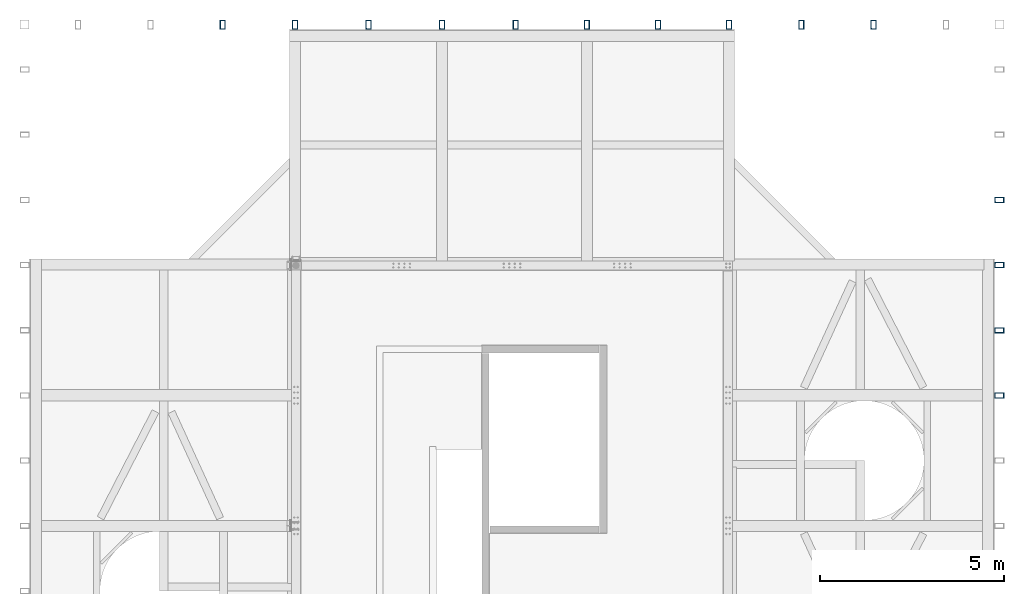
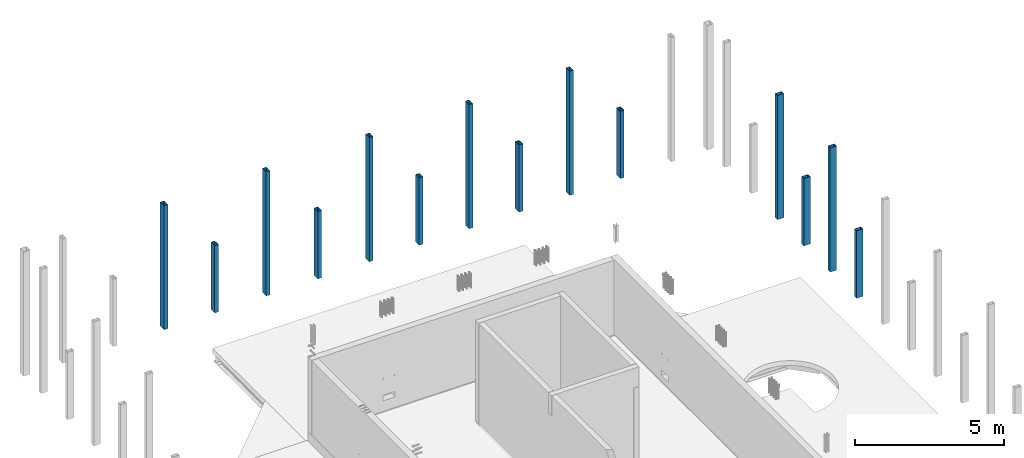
# One storey, part 4 of 16: 14 columns.
"""IFC2X3 building model written with IfcOpenShell, lengths in millimetres."""

from ifc_helpers import new_model, entity, si_unit, converted_unit, derived_unit, direction, frame, frame_2d, origin, place, context, subcontext, project, spatial, polyline, circle_curve, parameter, trimmed, segment, composite_curve, outline, extrude, source, transform, mapped, material, type_object, type_shapes, element, save


model = new_model("IFC2X3")

# Units and contexts
model_context = context("Model", 3, precision=0.01, world=origin(), true_north=direction((6.12303176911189e-17, 1.0)))
body_context = subcontext(model_context, "Body", "Model", "MODEL_VIEW")
ifc_project = project(units=[si_unit("LENGTHUNIT", "METRE", prefix="MILLI"), si_unit("AREAUNIT", "SQUARE_METRE"), si_unit("VOLUMEUNIT", "CUBIC_METRE"), converted_unit("PLANEANGLEUNIT", "DEGREE", entity("IfcRatioMeasure", 0.0174532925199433), si_unit("PLANEANGLEUNIT", "RADIAN"), dimensions=[0, 0, 0, 0, 0, 0, 0]), si_unit("MASSUNIT", "GRAM", prefix="KILO"), derived_unit("MASSDENSITYUNIT", [(si_unit("MASSUNIT", "GRAM", prefix="KILO"), 1), (si_unit("LENGTHUNIT", "METRE"), -3)]), si_unit("TIMEUNIT", "SECOND"), si_unit("FREQUENCYUNIT", "HERTZ"), si_unit("THERMODYNAMICTEMPERATUREUNIT", "DEGREE_CELSIUS"), derived_unit("THERMALTRANSMITTANCEUNIT", [(si_unit("MASSUNIT", "GRAM", prefix="KILO"), 1), (si_unit("THERMODYNAMICTEMPERATUREUNIT", "KELVIN"), -1), (si_unit("TIMEUNIT", "SECOND"), -3)]), derived_unit("VOLUMETRICFLOWRATEUNIT", [(si_unit("LENGTHUNIT", "METRE"), 3), (si_unit("TIMEUNIT", "SECOND"), -1)]), si_unit("ELECTRICCURRENTUNIT", "AMPERE"), si_unit("ELECTRICVOLTAGEUNIT", "VOLT"), si_unit("POWERUNIT", "WATT"), si_unit("FORCEUNIT", "NEWTON", prefix="KILO"), si_unit("ILLUMINANCEUNIT", "LUX"), si_unit("LUMINOUSFLUXUNIT", "LUMEN"), si_unit("LUMINOUSINTENSITYUNIT", "CANDELA"), derived_unit("USERDEFINED", [(si_unit("MASSUNIT", "GRAM", prefix="KILO"), -1), (si_unit("LENGTHUNIT", "METRE"), -2), (si_unit("TIMEUNIT", "SECOND"), 3), (si_unit("LUMINOUSFLUXUNIT", "LUMEN"), 1)]), derived_unit("LINEARVELOCITYUNIT", [(si_unit("LENGTHUNIT", "METRE"), 1), (si_unit("TIMEUNIT", "SECOND"), -1)]), si_unit("PRESSUREUNIT", "PASCAL"), derived_unit("USERDEFINED", [(si_unit("LENGTHUNIT", "METRE"), -2), (si_unit("MASSUNIT", "GRAM", prefix="KILO"), 1), (si_unit("TIMEUNIT", "SECOND"), -2)])], contexts=[model_context])

# Site, building, storey
site_placement = place(None, origin())
site = spatial("IfcSite", under=ifc_project, at=site_placement, Name="Default", CompositionType="ELEMENT")
building_placement = place(site_placement, origin())
building = spatial("IfcBuilding", under=site, at=building_placement, Name="niet gebruiken", CompositionType="ELEMENT")
storey_placement = place(building_placement, frame((0.0, 0.0, 183150.0)))
storey = spatial("IfcBuildingStorey", under=building, at=storey_placement, Name="58 achtenvijftigste verdieping", CompositionType="ELEMENT", Elevation=183150.0)

# Columns
ifc_material = material(Name="NLRS_h2_staal")
column_type_1 = type_object("IfcColumnType", Name="kolom buisprofiel rechthoekig RHSH_250x150x16", PredefinedType="COLUMN", material=ifc_material)
shared_shape_1 = source(origin(), body_context, "Body", "SweptSolid", [
    extrude(outline(polyline([(-125.0, -75.0), (125.0, -75.0), (125.0, 75.0), (-125.0, 75.0), (-125.0, -75.0)]), holes=[composite_curve([segment(trimmed(circle_curve(frame_2d((-96.5, -46.5000000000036), x_axis=(0.0, 1.0)), 12.5), [parameter(90.0)], [parameter(180.0)], True, "PARAMETER"), False, "CONTINUOUS"), segment(polyline([(-109.0, -46.5), (-109.0, 46.4999999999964)]), True, "CONTINUOUS"), segment(trimmed(circle_curve(frame_2d((-96.5, 46.4999999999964), x_axis=(0.0, 1.0)), 12.5), [parameter(360.0)], [parameter(89.9999999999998)], True, "PARAMETER"), False, "CONTINUOUS"), segment(polyline([(-96.4999999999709, 59.0), (96.5000000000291, 59.0)]), True, "CONTINUOUS"), segment(trimmed(circle_curve(frame_2d((96.5000000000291, 46.4999999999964), x_axis=(0.0, 1.0)), 12.5), [parameter(270.0)], [parameter(360.0)], True, "PARAMETER"), False, "CONTINUOUS"), segment(polyline([(109.0, 46.4999999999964), (109.0, -46.5)]), True, "CONTINUOUS"), segment(trimmed(circle_curve(frame_2d((96.5000000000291, -46.5000000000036), x_axis=(0.0, 1.0)), 12.5), [parameter(180.0)], [parameter(270.0)], True, "PARAMETER"), False, "CONTINUOUS"), segment(polyline([(96.5000000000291, -59.0), (-96.4999999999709, -59.0)]), True, "CONTINUOUS")], self_intersect=False)]), frame((155005.0, 21045.0, 184200.0)), (0.0, 0.0, 1.0), 2760.0),
])
type_shapes(column_type_1, [shared_shape_1])
column_1_placement = place(storey_placement, frame((0.0, 0.0, -183150.0)))
element("IfcColumn", 1, at=column_1_placement, inside=storey, type_object=column_type_1, material=ifc_material, Name="NLRS_28.11_SCO_TLB_stalen kolom buisprofiel rechthoekig_gen:kolom buisprofiel rechthoekig RHSH_250x150x16", ObjectType="kolom buisprofiel rechthoekig RHSH_250x150x16", context=body_context, shape_type="MappedRepresentation", body=[
    mapped(shared_shape_1, transform((0.0, 0.0, 0.0), scale=1.0)),
])
column_type_2 = type_object("IfcColumnType", Name="kolom buisprofiel rechthoekig RHSH_250x150x16", PredefinedType="COLUMN", material=ifc_material)
shared_shape_2 = source(origin(), body_context, "Body", "SweptSolid", [
    extrude(outline(polyline([(-125.0, -75.0), (125.0, -75.0), (125.0, 75.0), (-125.0, 75.0), (-125.0, -75.0)]), holes=[composite_curve([segment(trimmed(circle_curve(frame_2d((-96.5, -46.5000000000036), x_axis=(0.0, 1.0)), 12.5), [parameter(90.0)], [parameter(180.0)], True, "PARAMETER"), False, "CONTINUOUS"), segment(polyline([(-109.0, -46.5), (-109.0, 46.4999999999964)]), True, "CONTINUOUS"), segment(trimmed(circle_curve(frame_2d((-96.5, 46.4999999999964), x_axis=(0.0, 1.0)), 12.5), [parameter(360.0)], [parameter(89.9999999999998)], True, "PARAMETER"), False, "CONTINUOUS"), segment(polyline([(-96.4999999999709, 59.0), (96.5000000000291, 59.0)]), True, "CONTINUOUS"), segment(trimmed(circle_curve(frame_2d((96.5000000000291, 46.4999999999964), x_axis=(0.0, 1.0)), 12.5), [parameter(270.0)], [parameter(360.0)], True, "PARAMETER"), False, "CONTINUOUS"), segment(polyline([(109.0, 46.4999999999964), (109.0, -46.5)]), True, "CONTINUOUS"), segment(trimmed(circle_curve(frame_2d((96.5000000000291, -46.5000000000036), x_axis=(0.0, 1.0)), 12.5), [parameter(180.0)], [parameter(270.0)], True, "PARAMETER"), False, "CONTINUOUS"), segment(polyline([(96.5000000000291, -59.0), (-96.4999999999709, -59.0)]), True, "CONTINUOUS")], self_intersect=False)]), frame((155005.0, 22817.4999999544, 184200.0)), (0.0, 0.0, 1.0), 5089.99999999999),
])
type_shapes(column_type_2, [shared_shape_2])
column_2_placement = place(storey_placement, frame((0.0, 0.0, -183150.0)))
element("IfcColumn", 2, at=column_2_placement, inside=storey, type_object=column_type_2, material=ifc_material, Name="NLRS_28.11_SCO_TLB_stalen kolom buisprofiel rechthoekig_gen:kolom buisprofiel rechthoekig RHSH_250x150x16", ObjectType="kolom buisprofiel rechthoekig RHSH_250x150x16", context=body_context, shape_type="MappedRepresentation", body=[
    mapped(shared_shape_2, transform((0.0, 0.0, 0.0), scale=1.0)),
])
column_type_3 = type_object("IfcColumnType", Name="kolom buisprofiel rechthoekig RHSH_250x150x16", PredefinedType="COLUMN", material=ifc_material)
shared_shape_3 = source(origin(), body_context, "Body", "SweptSolid", [
    extrude(outline(polyline([(-125.0, -75.0), (125.0, -75.0), (125.0, 75.0), (-125.0, 75.0), (-125.0, -75.0)]), holes=[composite_curve([segment(trimmed(circle_curve(frame_2d((-96.5, -46.5000000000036), x_axis=(0.0, 1.0)), 12.5), [parameter(90.0)], [parameter(180.0)], True, "PARAMETER"), False, "CONTINUOUS"), segment(polyline([(-109.0, -46.4999999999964), (-109.0, 46.5)]), True, "CONTINUOUS"), segment(trimmed(circle_curve(frame_2d((-96.5, 46.5), x_axis=(0.0, 1.0)), 12.5), [parameter(360.0)], [parameter(89.9999999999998)], True, "PARAMETER"), False, "CONTINUOUS"), segment(polyline([(-96.5, 59.0), (96.5, 59.0)]), True, "CONTINUOUS"), segment(trimmed(circle_curve(frame_2d((96.5, 46.5), x_axis=(0.0, 1.0)), 12.5), [parameter(270.0)], [parameter(360.0)], True, "PARAMETER"), False, "CONTINUOUS"), segment(polyline([(109.0, 46.5), (109.0, -46.4999999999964)]), True, "CONTINUOUS"), segment(trimmed(circle_curve(frame_2d((96.5, -46.5000000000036), x_axis=(0.0, 1.0)), 12.5), [parameter(180.0)], [parameter(270.0)], True, "PARAMETER"), False, "CONTINUOUS"), segment(polyline([(96.5, -59.0), (-96.5, -59.0)]), True, "CONTINUOUS")], self_intersect=False)]), frame((155005.0, 24590.0, 184200.0)), (0.0, 0.0, 1.0), 2760.0),
])
type_shapes(column_type_3, [shared_shape_3])
column_3_placement = place(storey_placement, frame((0.0, 0.0, -183150.0)))
element("IfcColumn", 3, at=column_3_placement, inside=storey, type_object=column_type_3, material=ifc_material, Name="NLRS_28.11_SCO_TLB_stalen kolom buisprofiel rechthoekig_gen:kolom buisprofiel rechthoekig RHSH_250x150x16", ObjectType="kolom buisprofiel rechthoekig RHSH_250x150x16", context=body_context, shape_type="MappedRepresentation", body=[
    mapped(shared_shape_3, transform((0.0, 0.0, 0.0), scale=1.0)),
])
column_type_4 = type_object("IfcColumnType", Name="kolom buisprofiel rechthoekig RHSH_250x150x16", PredefinedType="COLUMN", material=ifc_material)
shared_shape_4 = source(origin(), body_context, "Body", "SweptSolid", [
    extrude(outline(polyline([(-125.0, -75.0), (125.0, -75.0), (125.0, 75.0), (-125.0, 75.0), (-125.0, -75.0)]), holes=[composite_curve([segment(trimmed(circle_curve(frame_2d((-96.5, -46.5), x_axis=(0.0, 1.0)), 12.5), [parameter(90.0)], [parameter(180.0)], True, "PARAMETER"), False, "CONTINUOUS"), segment(polyline([(-109.0, -46.4999999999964), (-109.0, 46.5)]), True, "CONTINUOUS"), segment(trimmed(circle_curve(frame_2d((-96.5, 46.5), x_axis=(0.0, 1.0)), 12.5), [parameter(360.0)], [parameter(89.9999999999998)], True, "PARAMETER"), False, "CONTINUOUS"), segment(polyline([(-96.5, 59.0), (96.5, 59.0)]), True, "CONTINUOUS"), segment(trimmed(circle_curve(frame_2d((96.5, 46.5), x_axis=(0.0, 1.0)), 12.5), [parameter(270.0)], [parameter(360.0)], True, "PARAMETER"), False, "CONTINUOUS"), segment(polyline([(109.0, 46.5), (109.0, -46.4999999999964)]), True, "CONTINUOUS"), segment(trimmed(circle_curve(frame_2d((96.5, -46.5), x_axis=(0.0, 1.0)), 12.5), [parameter(180.0)], [parameter(270.0)], True, "PARAMETER"), False, "CONTINUOUS"), segment(polyline([(96.5, -59.0), (-96.5, -59.0)]), True, "CONTINUOUS")], self_intersect=False)]), frame((155005.0, 26362.4999999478, 184200.0)), (0.0, 0.0, 1.0), 5089.99999999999),
])
type_shapes(column_type_4, [shared_shape_4])
column_4_placement = place(storey_placement, frame((0.0, 0.0, -183150.0)))
element("IfcColumn", 4, at=column_4_placement, inside=storey, type_object=column_type_4, material=ifc_material, Name="NLRS_28.11_SCO_TLB_stalen kolom buisprofiel rechthoekig_gen:kolom buisprofiel rechthoekig RHSH_250x150x16", ObjectType="kolom buisprofiel rechthoekig RHSH_250x150x16", context=body_context, shape_type="MappedRepresentation", body=[
    mapped(shared_shape_4, transform((0.0, 0.0, 0.0), scale=1.0)),
])
column_type_5 = type_object("IfcColumnType", Name="kolom buisprofiel rechthoekig RHSH_250x150x16", PredefinedType="COLUMN", material=ifc_material)
shared_shape_5 = source(origin(), body_context, "Body", "SweptSolid", [
    extrude(outline(polyline([(-125.0, -75.0), (125.0, -75.0), (125.0, 75.0), (-125.0, 75.0), (-125.0, -75.0)]), holes=[composite_curve([segment(trimmed(circle_curve(frame_2d((-96.5000000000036, -46.5), x_axis=(0.0, 1.0)), 12.5), [parameter(90.0)], [parameter(180.0)], True, "PARAMETER"), False, "CONTINUOUS"), segment(polyline([(-109.0, -46.5), (-109.0, 46.5)]), True, "CONTINUOUS"), segment(trimmed(circle_curve(frame_2d((-96.5000000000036, 46.5), x_axis=(0.0, 1.0)), 12.5), [parameter(360.0)], [parameter(89.9999999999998)], True, "PARAMETER"), False, "CONTINUOUS"), segment(polyline([(-96.5000000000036, 59.0), (96.5, 59.0)]), True, "CONTINUOUS"), segment(trimmed(circle_curve(frame_2d((96.4999999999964, 46.5), x_axis=(0.0, 1.0)), 12.5), [parameter(270.0)], [parameter(360.0)], True, "PARAMETER"), False, "CONTINUOUS"), segment(polyline([(109.0, 46.5), (109.0, -46.5)]), True, "CONTINUOUS"), segment(trimmed(circle_curve(frame_2d((96.4999999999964, -46.5), x_axis=(0.0, 1.0)), 12.5), [parameter(180.0)], [parameter(270.0)], True, "PARAMETER"), False, "CONTINUOUS"), segment(polyline([(96.5, -59.0), (-96.5000000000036, -59.0)]), True, "CONTINUOUS")], self_intersect=False)]), frame((151583.333333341, 31130.0, 184200.0), z_axis=(0.0, 0.0, 1.0), x_axis=(0.0, -1.0, 0.0)), (0.0, 0.0, 1.0), 2760.0),
])
type_shapes(column_type_5, [shared_shape_5])
column_5_placement = place(storey_placement, frame((0.0, 0.0, -183150.0)))
element("IfcColumn", 5, at=column_5_placement, inside=storey, type_object=column_type_5, material=ifc_material, Name="NLRS_28.11_SCO_TLB_stalen kolom buisprofiel rechthoekig_gen:kolom buisprofiel rechthoekig RHSH_250x150x16", ObjectType="kolom buisprofiel rechthoekig RHSH_250x150x16", context=body_context, shape_type="MappedRepresentation", body=[
    mapped(shared_shape_5, transform((0.0, 0.0, 0.0), scale=1.0)),
])
column_type_6 = type_object("IfcColumnType", Name="kolom buisprofiel rechthoekig RHSH_250x150x16", PredefinedType="COLUMN", material=ifc_material)
shared_shape_6 = source(origin(), body_context, "Body", "SweptSolid", [
    extrude(outline(polyline([(-125.0, -75.0), (125.0, -75.0), (125.0, 75.0), (-125.0, 75.0), (-125.0, -75.0)]), holes=[composite_curve([segment(trimmed(circle_curve(frame_2d((-96.4999999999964, -46.5), x_axis=(0.0, 1.0)), 12.5), [parameter(90.0)], [parameter(180.0)], True, "PARAMETER"), False, "CONTINUOUS"), segment(polyline([(-109.0, -46.5), (-109.0, 46.5)]), True, "CONTINUOUS"), segment(trimmed(circle_curve(frame_2d((-96.4999999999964, 46.5), x_axis=(0.0, 1.0)), 12.5), [parameter(360.0)], [parameter(89.9999999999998)], True, "PARAMETER"), False, "CONTINUOUS"), segment(polyline([(-96.4999999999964, 59.0), (96.5000000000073, 59.0)]), True, "CONTINUOUS"), segment(trimmed(circle_curve(frame_2d((96.5, 46.5), x_axis=(0.0, 1.0)), 12.5), [parameter(270.0)], [parameter(360.0)], True, "PARAMETER"), False, "CONTINUOUS"), segment(polyline([(109.0, 46.5), (109.0, -46.5)]), True, "CONTINUOUS"), segment(trimmed(circle_curve(frame_2d((96.5, -46.5), x_axis=(0.0, 1.0)), 12.5), [parameter(180.0)], [parameter(270.0)], True, "PARAMETER"), False, "CONTINUOUS"), segment(polyline([(96.5000000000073, -59.0), (-96.4999999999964, -59.0)]), True, "CONTINUOUS")], self_intersect=False)]), frame((149616.66666667, 31130.0, 184200.0), z_axis=(0.0, 0.0, 1.0), x_axis=(0.0, -1.0, 0.0)), (0.0, 0.0, 1.0), 5089.99999999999),
])
type_shapes(column_type_6, [shared_shape_6])
column_6_placement = place(storey_placement, frame((0.0, 0.0, -183150.0)))
element("IfcColumn", 6, at=column_6_placement, inside=storey, type_object=column_type_6, material=ifc_material, Name="NLRS_28.11_SCO_TLB_stalen kolom buisprofiel rechthoekig_gen:kolom buisprofiel rechthoekig RHSH_250x150x16", ObjectType="kolom buisprofiel rechthoekig RHSH_250x150x16", context=body_context, shape_type="MappedRepresentation", body=[
    mapped(shared_shape_6, transform((0.0, 0.0, 0.0), scale=1.0)),
])
column_type_7 = type_object("IfcColumnType", Name="kolom buisprofiel rechthoekig RHSH_250x150x16", PredefinedType="COLUMN", material=ifc_material)
shared_shape_7 = source(origin(), body_context, "Body", "SweptSolid", [
    extrude(outline(polyline([(-125.0, -75.0), (125.0, -75.0), (125.0, 75.0), (-125.0, 75.0), (-125.0, -75.0)]), holes=[composite_curve([segment(trimmed(circle_curve(frame_2d((-96.5000000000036, -46.5), x_axis=(0.0, 1.0)), 12.5), [parameter(90.0)], [parameter(180.0)], True, "PARAMETER"), False, "CONTINUOUS"), segment(polyline([(-109.0, -46.5), (-109.0, 46.5)]), True, "CONTINUOUS"), segment(trimmed(circle_curve(frame_2d((-96.5000000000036, 46.5), x_axis=(0.0, 1.0)), 12.5), [parameter(360.0)], [parameter(89.9999999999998)], True, "PARAMETER"), False, "CONTINUOUS"), segment(polyline([(-96.5000000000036, 59.0), (96.5, 59.0)]), True, "CONTINUOUS"), segment(trimmed(circle_curve(frame_2d((96.4999999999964, 46.5), x_axis=(0.0, 1.0)), 12.5), [parameter(270.0)], [parameter(360.0)], True, "PARAMETER"), False, "CONTINUOUS"), segment(polyline([(109.0, 46.5), (109.0, -46.5)]), True, "CONTINUOUS"), segment(trimmed(circle_curve(frame_2d((96.4999999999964, -46.5), x_axis=(0.0, 1.0)), 12.5), [parameter(180.0)], [parameter(270.0)], True, "PARAMETER"), False, "CONTINUOUS"), segment(polyline([(96.5, -59.0), (-96.5000000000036, -59.0)]), True, "CONTINUOUS")], self_intersect=False)]), frame((147650.0, 31130.0, 184200.0), z_axis=(0.0, 0.0, 1.0), x_axis=(0.0, -1.0, 0.0)), (0.0, 0.0, 1.0), 2760.0),
])
type_shapes(column_type_7, [shared_shape_7])
column_7_placement = place(storey_placement, frame((0.0, 0.0, -183150.0)))
element("IfcColumn", 7, at=column_7_placement, inside=storey, type_object=column_type_7, material=ifc_material, Name="NLRS_28.11_SCO_TLB_stalen kolom buisprofiel rechthoekig_gen:kolom buisprofiel rechthoekig RHSH_250x150x16", ObjectType="kolom buisprofiel rechthoekig RHSH_250x150x16", context=body_context, shape_type="MappedRepresentation", body=[
    mapped(shared_shape_7, transform((0.0, 0.0, 0.0), scale=1.0)),
])
column_type_8 = type_object("IfcColumnType", Name="kolom buisprofiel rechthoekig RHSH_250x150x16", PredefinedType="COLUMN", material=ifc_material)
shared_shape_8 = source(origin(), body_context, "Body", "SweptSolid", [
    extrude(outline(polyline([(-125.0, -75.0), (125.0, -75.0), (125.0, 75.0), (-125.0, 75.0), (-125.0, -75.0)]), holes=[composite_curve([segment(trimmed(circle_curve(frame_2d((-96.5000000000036, -46.5), x_axis=(0.0, 1.0)), 12.5), [parameter(90.0)], [parameter(180.0)], True, "PARAMETER"), False, "CONTINUOUS"), segment(polyline([(-109.0, -46.5), (-109.0, 46.5)]), True, "CONTINUOUS"), segment(trimmed(circle_curve(frame_2d((-96.5000000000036, 46.5), x_axis=(0.0, 1.0)), 12.5), [parameter(360.0)], [parameter(89.9999999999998)], True, "PARAMETER"), False, "CONTINUOUS"), segment(polyline([(-96.5000000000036, 59.0), (96.5, 59.0)]), True, "CONTINUOUS"), segment(trimmed(circle_curve(frame_2d((96.4999999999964, 46.5), x_axis=(0.0, 1.0)), 12.5), [parameter(270.0)], [parameter(360.0)], True, "PARAMETER"), False, "CONTINUOUS"), segment(polyline([(109.0, 46.5), (109.0, -46.5)]), True, "CONTINUOUS"), segment(trimmed(circle_curve(frame_2d((96.4999999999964, -46.5), x_axis=(0.0, 1.0)), 12.5), [parameter(180.0)], [parameter(270.0)], True, "PARAMETER"), False, "CONTINUOUS"), segment(polyline([(96.5, -59.0), (-96.5000000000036, -59.0)]), True, "CONTINUOUS")], self_intersect=False)]), frame((145716.666666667, 31130.0, 184200.0), z_axis=(0.0, 0.0, 1.0), x_axis=(0.0, -1.0, 0.0)), (0.0, 0.0, 1.0), 5089.99999999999),
])
type_shapes(column_type_8, [shared_shape_8])
column_8_placement = place(storey_placement, frame((0.0, 0.0, -183150.0)))
element("IfcColumn", 8, at=column_8_placement, inside=storey, type_object=column_type_8, material=ifc_material, Name="NLRS_28.11_SCO_TLB_stalen kolom buisprofiel rechthoekig_gen:kolom buisprofiel rechthoekig RHSH_250x150x16", ObjectType="kolom buisprofiel rechthoekig RHSH_250x150x16", context=body_context, shape_type="MappedRepresentation", body=[
    mapped(shared_shape_8, transform((0.0, 0.0, 0.0), scale=1.0)),
])
column_type_9 = type_object("IfcColumnType", Name="kolom buisprofiel rechthoekig RHSH_250x150x16", PredefinedType="COLUMN", material=ifc_material)
shared_shape_9 = source(origin(), body_context, "Body", "SweptSolid", [
    extrude(outline(polyline([(-125.0, -75.0), (125.0, -75.0), (125.0, 75.0), (-125.0, 75.0), (-125.0, -75.0)]), holes=[composite_curve([segment(trimmed(circle_curve(frame_2d((-96.5, -46.5), x_axis=(0.0, 1.0)), 12.5), [parameter(90.0)], [parameter(180.0)], True, "PARAMETER"), False, "CONTINUOUS"), segment(polyline([(-109.0, -46.5), (-109.0, 46.5)]), True, "CONTINUOUS"), segment(trimmed(circle_curve(frame_2d((-96.5, 46.5), x_axis=(0.0, 1.0)), 12.5), [parameter(360.0)], [parameter(89.9999999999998)], True, "PARAMETER"), False, "CONTINUOUS"), segment(polyline([(-96.5, 59.0), (96.5000000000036, 59.0)]), True, "CONTINUOUS"), segment(trimmed(circle_curve(frame_2d((96.5, 46.5), x_axis=(0.0, 1.0)), 12.5), [parameter(270.0)], [parameter(360.0)], True, "PARAMETER"), False, "CONTINUOUS"), segment(polyline([(109.0, 46.5), (109.0, -46.5)]), True, "CONTINUOUS"), segment(trimmed(circle_curve(frame_2d((96.5, -46.5), x_axis=(0.0, 1.0)), 12.5), [parameter(180.0)], [parameter(270.0)], True, "PARAMETER"), False, "CONTINUOUS"), segment(polyline([(96.5000000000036, -59.0), (-96.5, -59.0)]), True, "CONTINUOUS")], self_intersect=False)]), frame((143783.333333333, 31130.0, 184200.0), z_axis=(0.0, 0.0, 1.0), x_axis=(0.0, -1.0, 0.0)), (0.0, 0.0, 1.0), 2760.0),
])
type_shapes(column_type_9, [shared_shape_9])
column_9_placement = place(storey_placement, frame((0.0, 0.0, -183150.0)))
element("IfcColumn", 9, at=column_9_placement, inside=storey, type_object=column_type_9, material=ifc_material, Name="NLRS_28.11_SCO_TLB_stalen kolom buisprofiel rechthoekig_gen:kolom buisprofiel rechthoekig RHSH_250x150x16", ObjectType="kolom buisprofiel rechthoekig RHSH_250x150x16", context=body_context, shape_type="MappedRepresentation", body=[
    mapped(shared_shape_9, transform((0.0, 0.0, 0.0), scale=1.0)),
])
column_type_10 = type_object("IfcColumnType", Name="kolom buisprofiel rechthoekig RHSH_250x150x16", PredefinedType="COLUMN", material=ifc_material)
shared_shape_10 = source(origin(), body_context, "Body", "SweptSolid", [
    extrude(outline(polyline([(-125.0, -75.0), (125.0, -75.0), (125.0, 75.0), (-125.0, 75.0), (-125.0, -75.0)]), holes=[composite_curve([segment(trimmed(circle_curve(frame_2d((-96.5, -46.5), x_axis=(0.0, 1.0)), 12.5), [parameter(90.0)], [parameter(180.0)], True, "PARAMETER"), False, "CONTINUOUS"), segment(polyline([(-109.0, -46.5), (-109.0, 46.5)]), True, "CONTINUOUS"), segment(trimmed(circle_curve(frame_2d((-96.5, 46.5), x_axis=(0.0, 1.0)), 12.5), [parameter(360.0)], [parameter(89.9999999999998)], True, "PARAMETER"), False, "CONTINUOUS"), segment(polyline([(-96.5, 59.0), (96.5000000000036, 59.0)]), True, "CONTINUOUS"), segment(trimmed(circle_curve(frame_2d((96.4999999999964, 46.5), x_axis=(0.0, 1.0)), 12.5), [parameter(270.0)], [parameter(360.0)], True, "PARAMETER"), False, "CONTINUOUS"), segment(polyline([(109.0, 46.5), (109.0, -46.5)]), True, "CONTINUOUS"), segment(trimmed(circle_curve(frame_2d((96.4999999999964, -46.5), x_axis=(0.0, 1.0)), 12.5), [parameter(180.0)], [parameter(270.0)], True, "PARAMETER"), False, "CONTINUOUS"), segment(polyline([(96.5000000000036, -59.0), (-96.5, -59.0)]), True, "CONTINUOUS")], self_intersect=False)]), frame((141850.0, 31130.0, 184200.0), z_axis=(0.0, 0.0, 1.0), x_axis=(0.0, -1.0, 0.0)), (0.0, 0.0, 1.0), 5089.99999999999),
])
type_shapes(column_type_10, [shared_shape_10])
column_10_placement = place(storey_placement, frame((0.0, 0.0, -183150.0)))
element("IfcColumn", 10, at=column_10_placement, inside=storey, type_object=column_type_10, material=ifc_material, Name="NLRS_28.11_SCO_TLB_stalen kolom buisprofiel rechthoekig_gen:kolom buisprofiel rechthoekig RHSH_250x150x16", ObjectType="kolom buisprofiel rechthoekig RHSH_250x150x16", context=body_context, shape_type="MappedRepresentation", body=[
    mapped(shared_shape_10, transform((0.0, 0.0, 0.0), scale=1.0)),
])
column_type_11 = type_object("IfcColumnType", Name="kolom buisprofiel rechthoekig RHSH_250x150x16", PredefinedType="COLUMN", material=ifc_material)
shared_shape_11 = source(origin(), body_context, "Body", "SweptSolid", [
    extrude(outline(polyline([(-125.0, -75.0), (125.0, -75.0), (125.0, 75.0), (-125.0, 75.0), (-125.0, -75.0)]), holes=[composite_curve([segment(trimmed(circle_curve(frame_2d((-96.5000000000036, -46.5), x_axis=(0.0, 1.0)), 12.5), [parameter(90.0)], [parameter(180.0)], True, "PARAMETER"), False, "CONTINUOUS"), segment(polyline([(-109.0, -46.5), (-109.0, 46.5)]), True, "CONTINUOUS"), segment(trimmed(circle_curve(frame_2d((-96.5000000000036, 46.5), x_axis=(0.0, 1.0)), 12.5), [parameter(360.0)], [parameter(89.9999999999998)], True, "PARAMETER"), False, "CONTINUOUS"), segment(polyline([(-96.5000000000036, 59.0), (96.5, 59.0)]), True, "CONTINUOUS"), segment(trimmed(circle_curve(frame_2d((96.4999999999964, 46.5), x_axis=(0.0, 1.0)), 12.5), [parameter(270.0)], [parameter(360.0)], True, "PARAMETER"), False, "CONTINUOUS"), segment(polyline([(109.0, 46.5), (109.0, -46.5)]), True, "CONTINUOUS"), segment(trimmed(circle_curve(frame_2d((96.4999999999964, -46.5), x_axis=(0.0, 1.0)), 12.5), [parameter(180.0)], [parameter(270.0)], True, "PARAMETER"), False, "CONTINUOUS"), segment(polyline([(96.5, -59.0), (-96.5000000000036, -59.0)]), True, "CONTINUOUS")], self_intersect=False)]), frame((139850.0, 31130.0, 184200.0), z_axis=(0.0, 0.0, 1.0), x_axis=(0.0, -1.0, 0.0)), (0.0, 0.0, 1.0), 2760.0),
])
type_shapes(column_type_11, [shared_shape_11])
column_11_placement = place(storey_placement, frame((0.0, 0.0, -183150.0)))
element("IfcColumn", 11, at=column_11_placement, inside=storey, type_object=column_type_11, material=ifc_material, Name="NLRS_28.11_SCO_TLB_stalen kolom buisprofiel rechthoekig_gen:kolom buisprofiel rechthoekig RHSH_250x150x16", ObjectType="kolom buisprofiel rechthoekig RHSH_250x150x16", context=body_context, shape_type="MappedRepresentation", body=[
    mapped(shared_shape_11, transform((0.0, 0.0, 0.0), scale=1.0)),
])
column_type_12 = type_object("IfcColumnType", Name="kolom buisprofiel rechthoekig RHSH_250x150x16", PredefinedType="COLUMN", material=ifc_material)
shared_shape_12 = source(origin(), body_context, "Body", "SweptSolid", [
    extrude(outline(polyline([(-125.0, -75.0), (125.0, -75.0), (125.0, 75.0), (-125.0, 75.0), (-125.0, -75.0)]), holes=[composite_curve([segment(trimmed(circle_curve(frame_2d((-96.5, -46.5), x_axis=(0.0, 1.0)), 12.5), [parameter(90.0)], [parameter(180.0)], True, "PARAMETER"), False, "CONTINUOUS"), segment(polyline([(-109.0, -46.5), (-109.0, 46.4999999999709)]), True, "CONTINUOUS"), segment(trimmed(circle_curve(frame_2d((-96.5, 46.4999999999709), x_axis=(0.0, 1.0)), 12.5), [parameter(360.0)], [parameter(89.9999999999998)], True, "PARAMETER"), False, "CONTINUOUS"), segment(polyline([(-96.5, 59.0), (96.5000000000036, 59.0)]), True, "CONTINUOUS"), segment(trimmed(circle_curve(frame_2d((96.5, 46.4999999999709), x_axis=(0.0, 1.0)), 12.5), [parameter(270.0)], [parameter(360.0)], True, "PARAMETER"), False, "CONTINUOUS"), segment(polyline([(109.0, 46.4999999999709), (109.0, -46.5)]), True, "CONTINUOUS"), segment(trimmed(circle_curve(frame_2d((96.5, -46.5), x_axis=(0.0, 1.0)), 12.5), [parameter(180.0)], [parameter(270.0)], True, "PARAMETER"), False, "CONTINUOUS"), segment(polyline([(96.5000000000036, -59.0), (-96.5, -59.0)]), True, "CONTINUOUS")], self_intersect=False)]), frame((137850.0, 31130.0, 184200.0), z_axis=(0.0, 0.0, 1.0), x_axis=(0.0, -1.0, 0.0)), (0.0, 0.0, 1.0), 5089.99999999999),
])
type_shapes(column_type_12, [shared_shape_12])
column_12_placement = place(storey_placement, frame((0.0, 0.0, -183150.0)))
element("IfcColumn", 12, at=column_12_placement, inside=storey, type_object=column_type_12, material=ifc_material, Name="NLRS_28.11_SCO_TLB_stalen kolom buisprofiel rechthoekig_gen:kolom buisprofiel rechthoekig RHSH_250x150x16", ObjectType="kolom buisprofiel rechthoekig RHSH_250x150x16", context=body_context, shape_type="MappedRepresentation", body=[
    mapped(shared_shape_12, transform((0.0, 0.0, 0.0), scale=1.0)),
])
column_type_13 = type_object("IfcColumnType", Name="kolom buisprofiel rechthoekig RHSH_250x150x16", PredefinedType="COLUMN", material=ifc_material)
shared_shape_13 = source(origin(), body_context, "Body", "SweptSolid", [
    extrude(outline(polyline([(-125.0, -75.0), (125.0, -75.0), (125.0, 75.0), (-125.0, 75.0), (-125.0, -75.0)]), holes=[composite_curve([segment(trimmed(circle_curve(frame_2d((-96.5000000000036, -46.5), x_axis=(0.0, 1.0)), 12.5), [parameter(90.0)], [parameter(180.0)], True, "PARAMETER"), False, "CONTINUOUS"), segment(polyline([(-109.0, -46.5), (-109.0, 46.5)]), True, "CONTINUOUS"), segment(trimmed(circle_curve(frame_2d((-96.5000000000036, 46.5), x_axis=(0.0, 1.0)), 12.5), [parameter(360.0)], [parameter(89.9999999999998)], True, "PARAMETER"), False, "CONTINUOUS"), segment(polyline([(-96.5000000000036, 59.0), (96.5, 59.0)]), True, "CONTINUOUS"), segment(trimmed(circle_curve(frame_2d((96.4999999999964, 46.5), x_axis=(0.0, 1.0)), 12.5), [parameter(270.0)], [parameter(360.0)], True, "PARAMETER"), False, "CONTINUOUS"), segment(polyline([(109.0, 46.5), (109.0, -46.5)]), True, "CONTINUOUS"), segment(trimmed(circle_curve(frame_2d((96.4999999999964, -46.5), x_axis=(0.0, 1.0)), 12.5), [parameter(180.0)], [parameter(270.0)], True, "PARAMETER"), False, "CONTINUOUS"), segment(polyline([(96.5, -59.0), (-96.5000000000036, -59.0)]), True, "CONTINUOUS")], self_intersect=False)]), frame((135850.0, 31130.0, 184200.0), z_axis=(0.0, 0.0, 1.0), x_axis=(0.0, -1.0, 0.0)), (0.0, 0.0, 1.0), 2760.0),
])
type_shapes(column_type_13, [shared_shape_13])
column_13_placement = place(storey_placement, frame((0.0, 0.0, -183150.0)))
element("IfcColumn", 13, at=column_13_placement, inside=storey, type_object=column_type_13, material=ifc_material, Name="NLRS_28.11_SCO_TLB_stalen kolom buisprofiel rechthoekig_gen:kolom buisprofiel rechthoekig RHSH_250x150x16", ObjectType="kolom buisprofiel rechthoekig RHSH_250x150x16", context=body_context, shape_type="MappedRepresentation", body=[
    mapped(shared_shape_13, transform((0.0, 0.0, 0.0), scale=1.0)),
])
column_type_14 = type_object("IfcColumnType", Name="kolom buisprofiel rechthoekig RHSH_250x150x16", PredefinedType="COLUMN", material=ifc_material)
shared_shape_14 = source(origin(), body_context, "Body", "SweptSolid", [
    extrude(outline(polyline([(-125.0, -75.0), (125.0, -75.0), (125.0, 75.0), (-125.0, 75.0), (-125.0, -75.0)]), holes=[composite_curve([segment(trimmed(circle_curve(frame_2d((-96.5, -46.5), x_axis=(0.0, 1.0)), 12.5), [parameter(90.0)], [parameter(180.0)], True, "PARAMETER"), False, "CONTINUOUS"), segment(polyline([(-109.0, -46.5), (-109.0, 46.5)]), True, "CONTINUOUS"), segment(trimmed(circle_curve(frame_2d((-96.5, 46.5), x_axis=(0.0, 1.0)), 12.5), [parameter(360.0)], [parameter(89.9999999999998)], True, "PARAMETER"), False, "CONTINUOUS"), segment(polyline([(-96.5, 59.0), (96.5000000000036, 59.0)]), True, "CONTINUOUS"), segment(trimmed(circle_curve(frame_2d((96.4999999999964, 46.5), x_axis=(0.0, 1.0)), 12.5), [parameter(270.0)], [parameter(360.0)], True, "PARAMETER"), False, "CONTINUOUS"), segment(polyline([(109.0, 46.5), (109.0, -46.5)]), True, "CONTINUOUS"), segment(trimmed(circle_curve(frame_2d((96.4999999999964, -46.5), x_axis=(0.0, 1.0)), 12.5), [parameter(180.0)], [parameter(270.0)], True, "PARAMETER"), False, "CONTINUOUS"), segment(polyline([(96.5000000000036, -59.0), (-96.5, -59.0)]), True, "CONTINUOUS")], self_intersect=False)]), frame((133883.333333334, 31130.0, 184200.0), z_axis=(0.0, 0.0, 1.0), x_axis=(0.0, -1.0, 0.0)), (0.0, 0.0, 1.0), 5089.99999999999),
])
type_shapes(column_type_14, [shared_shape_14])
column_14_placement = place(storey_placement, frame((0.0, 0.0, -183150.0)))
element("IfcColumn", 14, at=column_14_placement, inside=storey, type_object=column_type_14, material=ifc_material, Name="NLRS_28.11_SCO_TLB_stalen kolom buisprofiel rechthoekig_gen:kolom buisprofiel rechthoekig RHSH_250x150x16", ObjectType="kolom buisprofiel rechthoekig RHSH_250x150x16", context=body_context, shape_type="MappedRepresentation", body=[
    mapped(shared_shape_14, transform((0.0, 0.0, 0.0), scale=1.0)),
])

save(model, "model.ifc")
